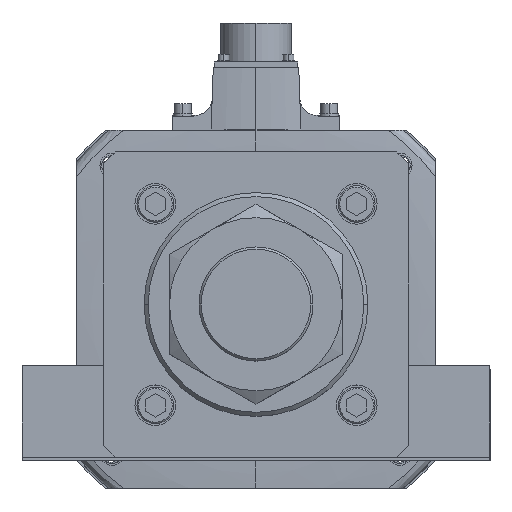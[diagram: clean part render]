
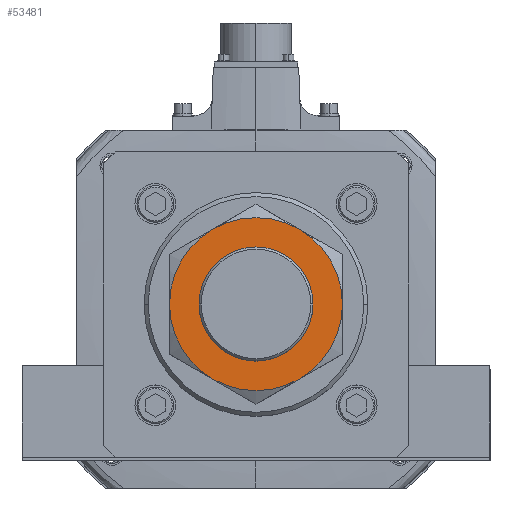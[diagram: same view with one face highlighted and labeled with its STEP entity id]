
A CAD part, top view. The second image highlights one B-rep face of the part: STEP entity #53481.
In plain terms, the highlighted planar face has unit normal (0, 0, 1).
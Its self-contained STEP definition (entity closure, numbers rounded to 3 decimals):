
#3266 = EDGE_CURVE ( 'NONE', #8119, #44778, #21859, .T. ) ;
#6009 = CARTESIAN_POINT ( 'NONE',  ( 0., 0., 34. ) ) ;
#7535 = CARTESIAN_POINT ( 'NONE',  ( 0., 0., 34. ) ) ;
#8119 = VERTEX_POINT ( 'NONE', #14927 ) ;
#9034 = AXIS2_PLACEMENT_3D ( 'NONE', #36303, #31391, #36492 ) ;
#9256 = CIRCLE ( 'NONE', #44728, 42.5 ) ;
#10197 = VERTEX_POINT ( 'NONE', #46049 ) ;
#11107 = DIRECTION ( 'NONE',  ( 0., 0., -1. ) ) ;
#11288 = CIRCLE ( 'NONE', #9034, 42.5 ) ;
#11377 = VERTEX_POINT ( 'NONE', #45101 ) ;
#13481 = CARTESIAN_POINT ( 'NONE',  ( 0., 0., 34. ) ) ;
#14927 = CARTESIAN_POINT ( 'NONE',  ( -42.5, 0., 34. ) ) ;
#15441 = CARTESIAN_POINT ( 'NONE',  ( -21.25, -36.806, 34. ) ) ;
#15463 = EDGE_CURVE ( 'NONE', #42928, #11377, #47787, .T. ) ;
#16610 = DIRECTION ( 'NONE',  ( 1., 0., 0. ) ) ;
#16712 = EDGE_CURVE ( 'NONE', #11377, #42928, #42932, .T. ) ;
#17488 = EDGE_CURVE ( 'NONE', #30113, #8119, #11288, .T. ) ;
#18472 = CIRCLE ( 'NONE', #40932, 42.5 ) ;
#18764 = EDGE_CURVE ( 'NONE', #30323, #39540, #9256, .T. ) ;
#19919 = DIRECTION ( 'NONE',  ( -1., 0., 0. ) ) ;
#20248 = CARTESIAN_POINT ( 'NONE',  ( 0., 0., 34. ) ) ;
#21626 = CARTESIAN_POINT ( 'NONE',  ( 42.5, 0., 34. ) ) ;
#21859 = CIRCLE ( 'NONE', #33631, 42.5 ) ;
#22086 = ORIENTED_EDGE ( 'NONE', *, *, #25045, .F. ) ;
#23056 = DIRECTION ( 'NONE',  ( 0., 0., -1. ) ) ;
#23523 = DIRECTION ( 'NONE',  ( 1., 0., 0. ) ) ;
#23583 = AXIS2_PLACEMENT_3D ( 'NONE', #6009, #31585, #27809 ) ;
#25045 = EDGE_CURVE ( 'NONE', #44778, #30323, #28795, .T. ) ;
#26671 = ORIENTED_EDGE ( 'NONE', *, *, #43463, .F. ) ;
#27119 = CARTESIAN_POINT ( 'NONE',  ( 0., 0., 34. ) ) ;
#27809 = DIRECTION ( 'NONE',  ( 1., 0., 0. ) ) ;
#27942 = ORIENTED_EDGE ( 'NONE', *, *, #18764, .F. ) ;
#28654 = EDGE_LOOP ( 'NONE', ( #26671, #27942, #22086, #37949, #52913, #35844 ) ) ;
#28795 = CIRCLE ( 'NONE', #46384, 42.5 ) ;
#29410 = CARTESIAN_POINT ( 'NONE',  ( 0., 0., 34. ) ) ;
#30113 = VERTEX_POINT ( 'NONE', #15441 ) ;
#30323 = VERTEX_POINT ( 'NONE', #37666 ) ;
#30940 = AXIS2_PLACEMENT_3D ( 'NONE', #27119, #48727, #39555 ) ;
#31391 = DIRECTION ( 'NONE',  ( 0., 0., -1. ) ) ;
#31570 = AXIS2_PLACEMENT_3D ( 'NONE', #29410, #42181, #16610 ) ;
#31585 = DIRECTION ( 'NONE',  ( 0., 0., -1. ) ) ;
#33247 = EDGE_LOOP ( 'NONE', ( #40710, #49377 ) ) ;
#33631 = AXIS2_PLACEMENT_3D ( 'NONE', #7535, #11107, #19919 ) ;
#35844 = ORIENTED_EDGE ( 'NONE', *, *, #54718, .F. ) ;
#35883 = DIRECTION ( 'NONE',  ( 1., 0., 0. ) ) ;
#36303 = CARTESIAN_POINT ( 'NONE',  ( 0., 0., 34. ) ) ;
#36492 = DIRECTION ( 'NONE',  ( 1., 0., 0. ) ) ;
#37666 = CARTESIAN_POINT ( 'NONE',  ( 21.25, 36.806, 34. ) ) ;
#37949 = ORIENTED_EDGE ( 'NONE', *, *, #3266, .F. ) ;
#38789 = FACE_OUTER_BOUND ( 'NONE', #28654, .T. ) ;
#39540 = VERTEX_POINT ( 'NONE', #21626 ) ;
#39555 = DIRECTION ( 'NONE',  ( 1., 0., 0. ) ) ;
#40710 = ORIENTED_EDGE ( 'NONE', *, *, #16712, .F. ) ;
#40932 = AXIS2_PLACEMENT_3D ( 'NONE', #44083, #23056, #35883 ) ;
#41046 = AXIS2_PLACEMENT_3D ( 'NONE', #51535, #46513, #55316 ) ;
#41056 = DIRECTION ( 'NONE',  ( 0., 0., -1. ) ) ;
#41672 = DIRECTION ( 'NONE',  ( 1., 0., 0. ) ) ;
#42181 = DIRECTION ( 'NONE',  ( 0., 0., 1. ) ) ;
#42376 = PLANE ( 'NONE',  #31570 ) ;
#42928 = VERTEX_POINT ( 'NONE', #53555 ) ;
#42932 = CIRCLE ( 'NONE', #41046, 28. ) ;
#43463 = EDGE_CURVE ( 'NONE', #39540, #10197, #48291, .T. ) ;
#44083 = CARTESIAN_POINT ( 'NONE',  ( 0., 0., 34. ) ) ;
#44102 = FACE_BOUND ( 'NONE', #33247, .T. ) ;
#44728 = AXIS2_PLACEMENT_3D ( 'NONE', #20248, #54801, #41672 ) ;
#44778 = VERTEX_POINT ( 'NONE', #54755 ) ;
#45101 = CARTESIAN_POINT ( 'NONE',  ( -28., 0., 34. ) ) ;
#46049 = CARTESIAN_POINT ( 'NONE',  ( 21.25, -36.806, 34. ) ) ;
#46384 = AXIS2_PLACEMENT_3D ( 'NONE', #13481, #41056, #23523 ) ;
#46513 = DIRECTION ( 'NONE',  ( 0., 0., 1. ) ) ;
#47787 = CIRCLE ( 'NONE', #30940, 28. ) ;
#48291 = CIRCLE ( 'NONE', #23583, 42.5 ) ;
#48727 = DIRECTION ( 'NONE',  ( 0., 0., 1. ) ) ;
#49377 = ORIENTED_EDGE ( 'NONE', *, *, #15463, .F. ) ;
#51535 = CARTESIAN_POINT ( 'NONE',  ( 0., 0., 34. ) ) ;
#52913 = ORIENTED_EDGE ( 'NONE', *, *, #17488, .F. ) ;
#53481 = ADVANCED_FACE ( 'NONE', ( #38789, #44102 ), #42376, .T. ) ;
#53555 = CARTESIAN_POINT ( 'NONE',  ( 28., 0., 34. ) ) ;
#54718 = EDGE_CURVE ( 'NONE', #10197, #30113, #18472, .T. ) ;
#54755 = CARTESIAN_POINT ( 'NONE',  ( -21.25, 36.806, 34. ) ) ;
#54801 = DIRECTION ( 'NONE',  ( 0., 0., -1. ) ) ;
#55316 = DIRECTION ( 'NONE',  ( 1., 0., 0. ) ) ;
